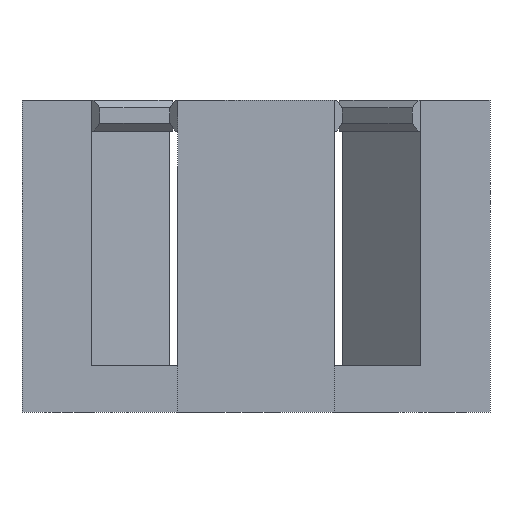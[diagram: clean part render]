
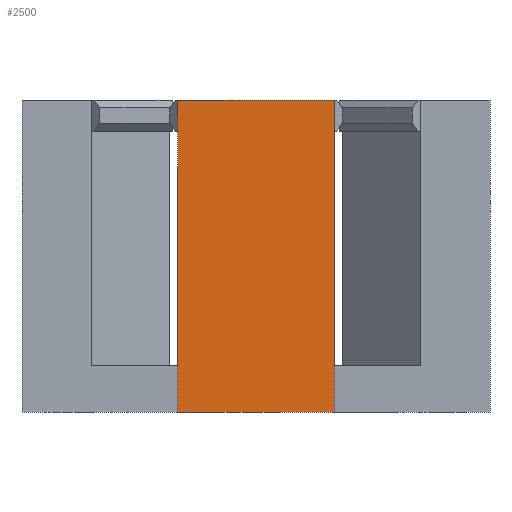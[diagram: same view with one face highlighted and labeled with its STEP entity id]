
A CAD part, left-side view. The second image highlights one B-rep face of the part: STEP entity #2500.
In plain terms, the highlighted planar face has unit normal (-1, 0, 0).
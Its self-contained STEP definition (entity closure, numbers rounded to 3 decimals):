
#186 = CARTESIAN_POINT ( 'NONE',  ( -15.269, -0.947, 0. ) ) ;
#216 = CARTESIAN_POINT ( 'NONE',  ( -15.269, 0., 3. ) ) ;
#221 = EDGE_CURVE ( 'NONE', #712, #2423, #2222, .T. ) ;
#387 = AXIS2_PLACEMENT_3D ( 'NONE', #216, #1667, #1653 ) ;
#488 = ORIENTED_EDGE ( 'NONE', *, *, #1357, .T. ) ;
#522 = VERTEX_POINT ( 'NONE', #803 ) ;
#534 = EDGE_LOOP ( 'NONE', ( #558, #549, #546, #488 ) ) ;
#546 = ORIENTED_EDGE ( 'NONE', *, *, #1373, .F. ) ;
#549 = ORIENTED_EDGE ( 'NONE', *, *, #1368, .F. ) ;
#558 = ORIENTED_EDGE ( 'NONE', *, *, #221, .T. ) ;
#712 = VERTEX_POINT ( 'NONE', #186 ) ;
#717 = CARTESIAN_POINT ( 'NONE',  ( -15.269, -10.947, 0. ) ) ;
#803 = CARTESIAN_POINT ( 'NONE',  ( -15.269, -10.947, 20. ) ) ;
#807 = FACE_OUTER_BOUND ( 'NONE', #534, .T. ) ;
#1357 = EDGE_CURVE ( 'NONE', #1685, #712, #1557, .T. ) ;
#1368 = EDGE_CURVE ( 'NONE', #522, #2423, #1558, .T. ) ;
#1373 = EDGE_CURVE ( 'NONE', #1685, #522, #1535, .T. ) ;
#1522 = VECTOR ( 'NONE', #2170, 1000. ) ;
#1527 = VECTOR ( 'NONE', #2137, 1000. ) ;
#1535 = LINE ( 'NONE', #1916, #1522 ) ;
#1542 = VECTOR ( 'NONE', #1990, 1000. ) ;
#1557 = LINE ( 'NONE', #1963, #1542 ) ;
#1558 = LINE ( 'NONE', #1861, #1527 ) ;
#1613 = DIRECTION ( 'NONE',  ( 0., -1., 0. ) ) ;
#1626 = CARTESIAN_POINT ( 'NONE',  ( -15.269, 0., 0. ) ) ;
#1653 = DIRECTION ( 'NONE',  ( 0., 1., 0. ) ) ;
#1667 = DIRECTION ( 'NONE',  ( 1., 0., 0. ) ) ;
#1685 = VERTEX_POINT ( 'NONE', #1719 ) ;
#1719 = CARTESIAN_POINT ( 'NONE',  ( -15.269, -0.947, 20. ) ) ;
#1859 = PLANE ( 'NONE',  #387 ) ;
#1861 = CARTESIAN_POINT ( 'NONE',  ( -15.269, -10.947, 3. ) ) ;
#1916 = CARTESIAN_POINT ( 'NONE',  ( -15.269, -0.947, 20. ) ) ;
#1963 = CARTESIAN_POINT ( 'NONE',  ( -15.269, -0.947, 3. ) ) ;
#1990 = DIRECTION ( 'NONE',  ( 0., 0., -1. ) ) ;
#2137 = DIRECTION ( 'NONE',  ( 0., 0., -1. ) ) ;
#2170 = DIRECTION ( 'NONE',  ( 0., -1., 0. ) ) ;
#2215 = VECTOR ( 'NONE', #1613, 1000. ) ;
#2222 = LINE ( 'NONE', #1626, #2215 ) ;
#2423 = VERTEX_POINT ( 'NONE', #717 ) ;
#2500 = ADVANCED_FACE ( 'NONE', ( #807 ), #1859, .F. ) ;
